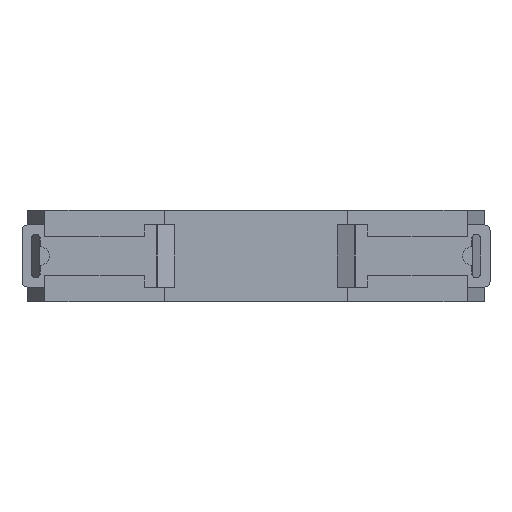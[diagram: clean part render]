
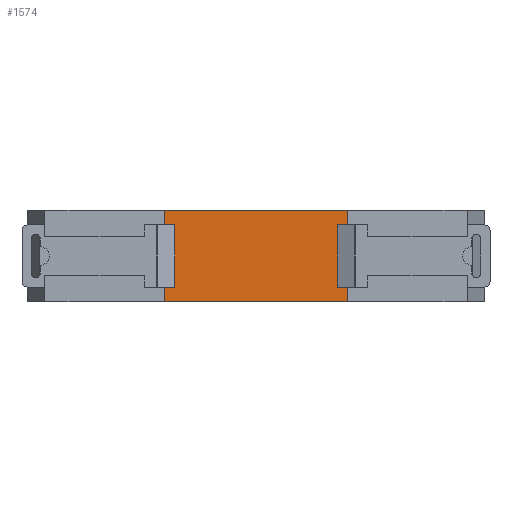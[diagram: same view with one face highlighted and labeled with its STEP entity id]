
A CAD part, left-side view. The second image highlights one B-rep face of the part: STEP entity #1574.
In plain terms, the highlighted planar face has unit normal (-1, 0, 0).
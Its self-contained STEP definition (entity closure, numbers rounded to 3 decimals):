
#862 = ORIENTED_EDGE ( 'NONE', *, *, #2053, .F. ) ;
#1052 = VERTEX_POINT ( 'NONE', #4985 ) ;
#1414 = DIRECTION ( 'NONE',  ( 0., -1., 0. ) ) ;
#1574 = ADVANCED_FACE ( 'NONE', ( #6485 ), #1578, .F. ) ;
#1578 = PLANE ( 'NONE',  #6672 ) ;
#1623 = DIRECTION ( 'NONE',  ( 0., 1., 0. ) ) ;
#2053 = EDGE_CURVE ( 'NONE', #12119, #7813, #2433, .T. ) ;
#2268 = VECTOR ( 'NONE', #11277, 1000. ) ;
#2433 = LINE ( 'NONE', #2462, #2776 ) ;
#2462 = CARTESIAN_POINT ( 'NONE',  ( -60., -4.25, 18. ) ) ;
#2565 = ORIENTED_EDGE ( 'NONE', *, *, #11771, .F. ) ;
#2592 = CARTESIAN_POINT ( 'NONE',  ( -60., -40.25, 18. ) ) ;
#2776 = VECTOR ( 'NONE', #1414, 1000. ) ;
#3264 = VERTEX_POINT ( 'NONE', #7231 ) ;
#3412 = LINE ( 'NONE', #3677, #2268 ) ;
#3519 = DIRECTION ( 'NONE',  ( 0., 0., -1. ) ) ;
#3677 = CARTESIAN_POINT ( 'NONE',  ( -60., -4.25, 0. ) ) ;
#4363 = VECTOR ( 'NONE', #12136, 1000. ) ;
#4985 = CARTESIAN_POINT ( 'NONE',  ( -60., -4.25, 0. ) ) ;
#5035 = CARTESIAN_POINT ( 'NONE',  ( -60., -4.25, 18. ) ) ;
#6485 = FACE_OUTER_BOUND ( 'NONE', #12891, .T. ) ;
#6672 = AXIS2_PLACEMENT_3D ( 'NONE', #10325, #10287, #1623 ) ;
#7231 = CARTESIAN_POINT ( 'NONE',  ( -60., -40.25, 0. ) ) ;
#7813 = VERTEX_POINT ( 'NONE', #8012 ) ;
#8012 = CARTESIAN_POINT ( 'NONE',  ( -60., -40.25, 18. ) ) ;
#8175 = ORIENTED_EDGE ( 'NONE', *, *, #12483, .T. ) ;
#10014 = ORIENTED_EDGE ( 'NONE', *, *, #11341, .T. ) ;
#10287 = DIRECTION ( 'NONE',  ( 1., 0., 0. ) ) ;
#10325 = CARTESIAN_POINT ( 'NONE',  ( -60., -4.25, 18. ) ) ;
#11277 = DIRECTION ( 'NONE',  ( 0., -1., 0. ) ) ;
#11341 = EDGE_CURVE ( 'NONE', #1052, #3264, #3412, .T. ) ;
#11666 = LINE ( 'NONE', #12040, #4363 ) ;
#11771 = EDGE_CURVE ( 'NONE', #7813, #3264, #13689, .T. ) ;
#12040 = CARTESIAN_POINT ( 'NONE',  ( -60., -4.25, 18. ) ) ;
#12119 = VERTEX_POINT ( 'NONE', #5035 ) ;
#12136 = DIRECTION ( 'NONE',  ( 0., 0., -1. ) ) ;
#12172 = VECTOR ( 'NONE', #3519, 1000. ) ;
#12483 = EDGE_CURVE ( 'NONE', #12119, #1052, #11666, .T. ) ;
#12891 = EDGE_LOOP ( 'NONE', ( #10014, #2565, #862, #8175 ) ) ;
#13689 = LINE ( 'NONE', #2592, #12172 ) ;
